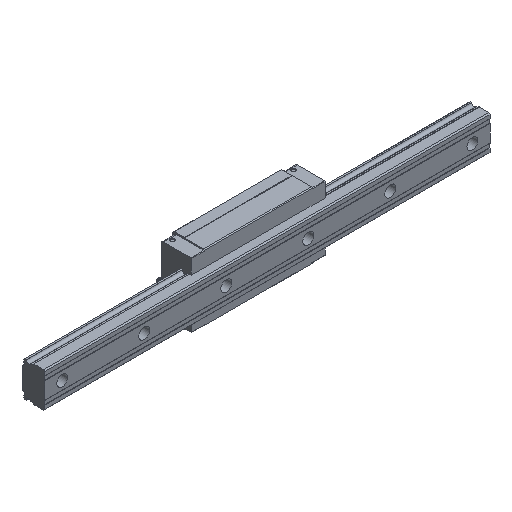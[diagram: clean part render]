
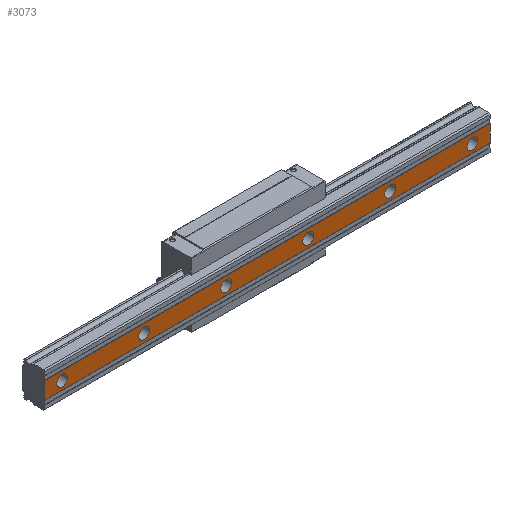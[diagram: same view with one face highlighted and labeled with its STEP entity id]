
A CAD part, isometric view. The second image highlights one B-rep face of the part: STEP entity #3073.
In plain terms, the highlighted planar face has unit normal (0, -1, 0).
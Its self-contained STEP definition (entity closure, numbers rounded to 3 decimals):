
#111=CIRCLE('',#3312,7.);
#112=CIRCLE('',#3313,7.);
#113=CIRCLE('',#3314,7.);
#114=CIRCLE('',#3315,7.);
#115=CIRCLE('',#3316,7.);
#116=CIRCLE('',#3317,7.);
#371=ORIENTED_EDGE('',*,*,#1216,.F.);
#372=ORIENTED_EDGE('',*,*,#1217,.F.);
#373=ORIENTED_EDGE('',*,*,#1218,.F.);
#374=ORIENTED_EDGE('',*,*,#1219,.F.);
#375=ORIENTED_EDGE('',*,*,#1220,.F.);
#376=ORIENTED_EDGE('',*,*,#1221,.F.);
#377=ORIENTED_EDGE('',*,*,#1222,.T.);
#378=ORIENTED_EDGE('',*,*,#1223,.F.);
#379=ORIENTED_EDGE('',*,*,#1224,.F.);
#380=ORIENTED_EDGE('',*,*,#1214,.T.);
#1214=EDGE_CURVE('',#1631,#1630,#1949,.T.);
#1216=EDGE_CURVE('',#1632,#1632,#111,.T.);
#1217=EDGE_CURVE('',#1633,#1633,#112,.T.);
#1218=EDGE_CURVE('',#1634,#1634,#113,.T.);
#1219=EDGE_CURVE('',#1635,#1635,#114,.T.);
#1220=EDGE_CURVE('',#1636,#1636,#115,.T.);
#1221=EDGE_CURVE('',#1637,#1637,#116,.T.);
#1222=EDGE_CURVE('',#1630,#1638,#1951,.T.);
#1223=EDGE_CURVE('',#1639,#1638,#1952,.T.);
#1224=EDGE_CURVE('',#1631,#1639,#1953,.T.);
#1630=VERTEX_POINT('',#4661);
#1631=VERTEX_POINT('',#4663);
#1632=VERTEX_POINT('',#4667);
#1633=VERTEX_POINT('',#4669);
#1634=VERTEX_POINT('',#4671);
#1635=VERTEX_POINT('',#4673);
#1636=VERTEX_POINT('',#4675);
#1637=VERTEX_POINT('',#4677);
#1638=VERTEX_POINT('',#4679);
#1639=VERTEX_POINT('',#4681);
#1949=LINE('',#4662,#2199);
#1951=LINE('',#4678,#2201);
#1952=LINE('',#4680,#2202);
#1953=LINE('',#4682,#2203);
#2199=VECTOR('',#3714,1000.);
#2201=VECTOR('',#3730,1000.);
#2202=VECTOR('',#3731,1000.);
#2203=VECTOR('',#3732,1000.);
#2432=EDGE_LOOP('',(#371));
#2433=EDGE_LOOP('',(#372));
#2434=EDGE_LOOP('',(#373));
#2435=EDGE_LOOP('',(#374));
#2436=EDGE_LOOP('',(#375));
#2437=EDGE_LOOP('',(#376));
#2438=EDGE_LOOP('',(#377,#378,#379,#380));
#2699=FACE_BOUND('',#2432,.T.);
#2700=FACE_BOUND('',#2433,.T.);
#2701=FACE_BOUND('',#2434,.T.);
#2702=FACE_BOUND('',#2435,.T.);
#2703=FACE_BOUND('',#2436,.T.);
#2704=FACE_BOUND('',#2437,.T.);
#2705=FACE_BOUND('',#2438,.T.);
#2969=PLANE('',#3311);
#3073=ADVANCED_FACE('',(#2699,#2700,#2701,#2702,#2703,#2704,#2705),#2969,
 .F.);
#3311=AXIS2_PLACEMENT_3D('',#4665,#3716,#3717);
#3312=AXIS2_PLACEMENT_3D('',#4666,#3718,#3719);
#3313=AXIS2_PLACEMENT_3D('',#4668,#3720,#3721);
#3314=AXIS2_PLACEMENT_3D('',#4670,#3722,#3723);
#3315=AXIS2_PLACEMENT_3D('',#4672,#3724,#3725);
#3316=AXIS2_PLACEMENT_3D('',#4674,#3726,#3727);
#3317=AXIS2_PLACEMENT_3D('',#4676,#3728,#3729);
#3714=DIRECTION('',(-1.,0.,0.));
#3716=DIRECTION('',(0.,1.,0.));
#3717=DIRECTION('',(0.,0.,1.));
#3718=DIRECTION('',(0.,-1.,0.));
#3719=DIRECTION('',(0.,0.,-1.));
#3720=DIRECTION('',(0.,-1.,0.));
#3721=DIRECTION('',(0.,0.,-1.));
#3722=DIRECTION('',(0.,-1.,0.));
#3723=DIRECTION('',(0.,0.,-1.));
#3724=DIRECTION('',(0.,-1.,0.));
#3725=DIRECTION('',(0.,0.,-1.));
#3726=DIRECTION('',(0.,-1.,0.));
#3727=DIRECTION('',(0.,0.,-1.));
#3728=DIRECTION('',(0.,-1.,0.));
#3729=DIRECTION('',(0.,0.,-1.));
#3730=DIRECTION('',(0.,0.,-1.));
#3731=DIRECTION('',(-1.,0.,0.));
#3732=DIRECTION('',(0.,0.,-1.));
#4661=CARTESIAN_POINT('',(-22.5,0.,10.8));
#4662=CARTESIAN_POINT('',(547.5,0.,10.8));
#4663=CARTESIAN_POINT('',(547.5,0.,10.8));
#4665=CARTESIAN_POINT('',(547.5,0.,10.8));
#4666=CARTESIAN_POINT('',(105.,0.,0.));
#4667=CARTESIAN_POINT('',(105.,0.,-7.));
#4668=CARTESIAN_POINT('',(210.,0.,0.));
#4669=CARTESIAN_POINT('',(210.,0.,-7.));
#4670=CARTESIAN_POINT('',(315.,0.,0.));
#4671=CARTESIAN_POINT('',(315.,0.,-7.));
#4672=CARTESIAN_POINT('',(420.,0.,0.));
#4673=CARTESIAN_POINT('',(420.,0.,-7.));
#4674=CARTESIAN_POINT('',(525.,0.,0.));
#4675=CARTESIAN_POINT('',(525.,0.,-7.));
#4676=CARTESIAN_POINT('',(0.,0.,0.));
#4677=CARTESIAN_POINT('',(0.,0.,-7.));
#4678=CARTESIAN_POINT('',(-22.5,0.,10.8));
#4679=CARTESIAN_POINT('',(-22.5,0.,-10.8));
#4680=CARTESIAN_POINT('',(547.5,0.,-10.8));
#4681=CARTESIAN_POINT('',(547.5,0.,-10.8));
#4682=CARTESIAN_POINT('',(547.5,0.,10.8));
